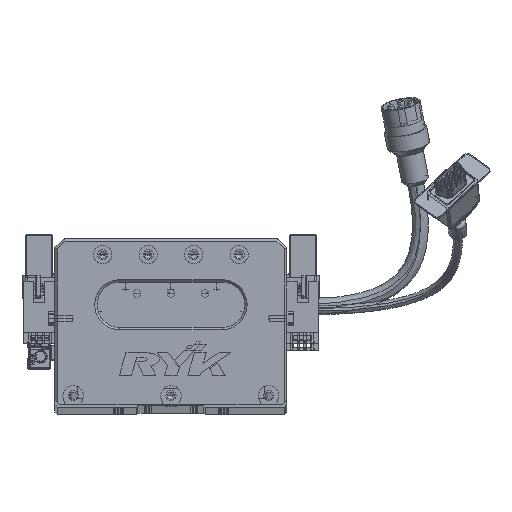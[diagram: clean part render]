
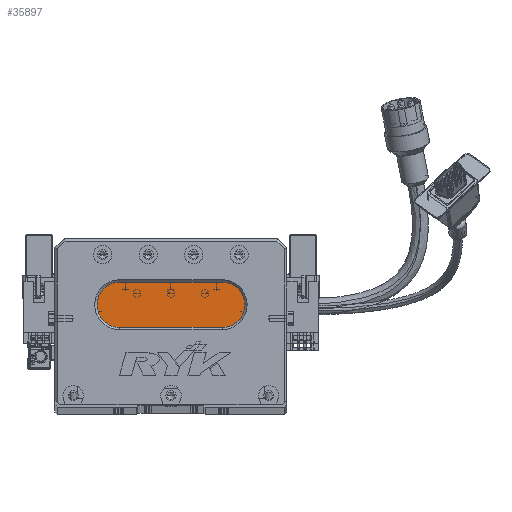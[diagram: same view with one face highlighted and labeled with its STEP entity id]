
A CAD part, top view. The second image highlights one B-rep face of the part: STEP entity #35897.
In plain terms, the highlighted planar face has unit normal (0, 0, 1) as drawn and (0, 0, -1) by its records, which use the part's own axes.
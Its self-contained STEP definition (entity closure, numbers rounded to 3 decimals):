
#700 = DIRECTION ( 'NONE',  ( 1., 0., 0. ) ) ;
#971 = ORIENTED_EDGE ( 'NONE', *, *, #22528, .T. ) ;
#1187 = CIRCLE ( 'NONE', #24331, 10. ) ;
#2130 = CARTESIAN_POINT ( 'NONE',  ( 73.5, 44., 13. ) ) ;
#3166 = VECTOR ( 'NONE', #50149, 1000. ) ;
#3217 = EDGE_CURVE ( 'NONE', #45671, #46649, #52685, .T. ) ;
#5776 = ORIENTED_EDGE ( 'NONE', *, *, #3217, .T. ) ;
#6460 = FACE_OUTER_BOUND ( 'NONE', #17994, .T. ) ;
#9401 = CARTESIAN_POINT ( 'NONE',  ( 28.5, 44., 13. ) ) ;
#15260 = DIRECTION ( 'NONE',  ( -1., 0., 0. ) ) ;
#17994 = EDGE_LOOP ( 'NONE', ( #971, #31819, #5776, #25063, #51967 ) ) ;
#21929 = AXIS2_PLACEMENT_3D ( 'NONE', #2130, #56591, #15260 ) ;
#22348 = DIRECTION ( 'NONE',  ( 0., 0., -1. ) ) ;
#22528 = EDGE_CURVE ( 'NONE', #33866, #57998, #76323, .T. ) ;
#23068 = EDGE_CURVE ( 'NONE', #73216, #33866, #67793, .T. ) ;
#24331 = AXIS2_PLACEMENT_3D ( 'NONE', #25666, #31424, #26437 ) ;
#25063 = ORIENTED_EDGE ( 'NONE', *, *, #66845, .T. ) ;
#25666 = CARTESIAN_POINT ( 'NONE',  ( 28.5, 44., 13. ) ) ;
#26437 = DIRECTION ( 'NONE',  ( -1., 0., 0. ) ) ;
#28799 = CARTESIAN_POINT ( 'NONE',  ( 73.5, 54., 13. ) ) ;
#31424 = DIRECTION ( 'NONE',  ( 0., 0., -1. ) ) ;
#31729 = CARTESIAN_POINT ( 'NONE',  ( 73.5, 34., 13. ) ) ;
#31819 = ORIENTED_EDGE ( 'NONE', *, *, #58391, .T. ) ;
#33012 = CARTESIAN_POINT ( 'NONE',  ( 28.5, 34., 13. ) ) ;
#33866 = VERTEX_POINT ( 'NONE', #28799 ) ;
#35897 = ADVANCED_FACE ( 'NONE', ( #6460 ), #67858, .T. ) ;
#37386 = DIRECTION ( 'NONE',  ( -1., 0., 0. ) ) ;
#39452 = DIRECTION ( 'NONE',  ( -1., 0., 0. ) ) ;
#45671 = VERTEX_POINT ( 'NONE', #33012 ) ;
#45947 = CARTESIAN_POINT ( 'NONE',  ( 28.5, 54., 13. ) ) ;
#46649 = VERTEX_POINT ( 'NONE', #71521 ) ;
#50149 = DIRECTION ( 'NONE',  ( -1., 0., 0. ) ) ;
#51967 = ORIENTED_EDGE ( 'NONE', *, *, #23068, .T. ) ;
#52685 = CIRCLE ( 'NONE', #62227, 10. ) ;
#53061 = LINE ( 'NONE', #31729, #3166 ) ;
#56512 = VECTOR ( 'NONE', #700, 1000. ) ;
#56591 = DIRECTION ( 'NONE',  ( 0., 0., -1. ) ) ;
#57998 = VERTEX_POINT ( 'NONE', #63597 ) ;
#58391 = EDGE_CURVE ( 'NONE', #57998, #45671, #53061, .T. ) ;
#62227 = AXIS2_PLACEMENT_3D ( 'NONE', #9401, #22348, #39452 ) ;
#63597 = CARTESIAN_POINT ( 'NONE',  ( 73.5, 34., 13. ) ) ;
#66468 = CARTESIAN_POINT ( 'NONE',  ( 73.5, 54., 13. ) ) ;
#66845 = EDGE_CURVE ( 'NONE', #46649, #73216, #1187, .T. ) ;
#67329 = CARTESIAN_POINT ( 'NONE',  ( 73.5, 44., 13. ) ) ;
#67793 = LINE ( 'NONE', #66468, #56512 ) ;
#67858 = PLANE ( 'NONE',  #76072 ) ;
#68116 = DIRECTION ( 'NONE',  ( 0., 0., -1. ) ) ;
#71521 = CARTESIAN_POINT ( 'NONE',  ( 18.5, 44., 13. ) ) ;
#73216 = VERTEX_POINT ( 'NONE', #45947 ) ;
#76072 = AXIS2_PLACEMENT_3D ( 'NONE', #67329, #68116, #37386 ) ;
#76323 = CIRCLE ( 'NONE', #21929, 10. ) ;
